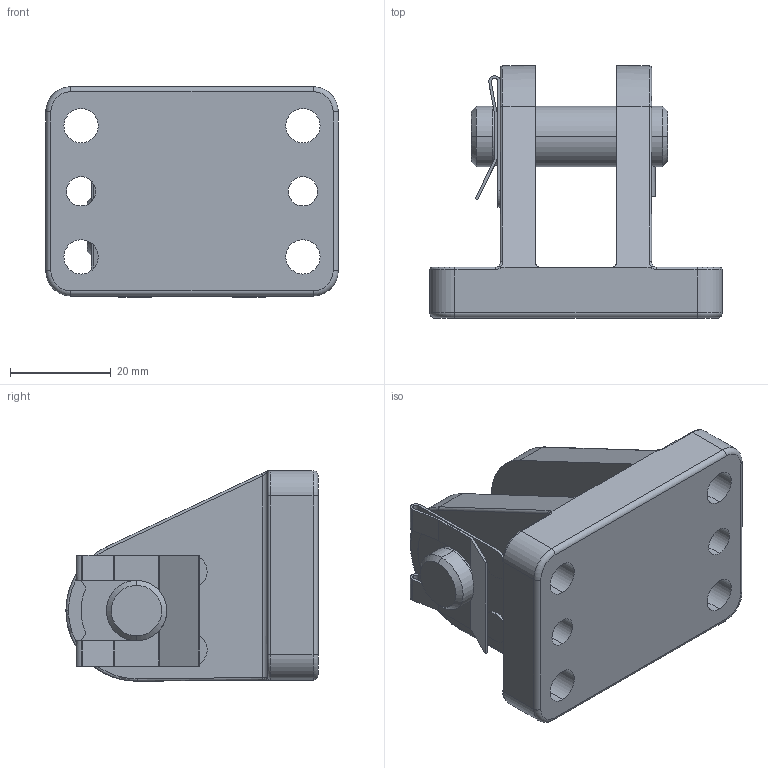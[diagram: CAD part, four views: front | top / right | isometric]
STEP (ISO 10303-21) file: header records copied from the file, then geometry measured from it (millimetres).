
FILE_DESCRIPTION (( 'STEP AP214' ), '1' );
FILE_NAME ('LBGUI-040.STEP', '2013-09-20T11:58:04', ( '' ), ( '' ), 'SwSTEP 2.0', 'SolidWorks 2009', '' );
FILE_SCHEMA (( 'AUTOMOTIVE_DESIGN' ));
Length unit declared in the file: millimetre
Products named in the file (4): LBGUI_LBGUI-040; SL-12; Bolzen_Bolzen-12-39; LBGUI-040
Assembly tree (3 placements, depth 2):
  LBGUI-040
    Bolzen_Bolzen-12-39
    SL-12
    LBGUI_LBGUI-040
Bounding box: 58 x 50 x 41.75 mm (x, y, z)
Volume: 42128.6 mm3; surface area: 16467.6 mm2
Topology: 3 solids, 3 shells, 147 faces, 384 edges, 244 vertices
Faces by surface type: cylinder 78, plane 45, torus 16, cone 4, bspline 4
Entity records: 5536 total; most frequent: CARTESIAN_POINT 1155, DIRECTION 820, ORIENTED_EDGE 768, EDGE_CURVE 384, AXIS2_PLACEMENT_3D 321, VERTEX_POINT 244, VECTOR 178, LINE 178
